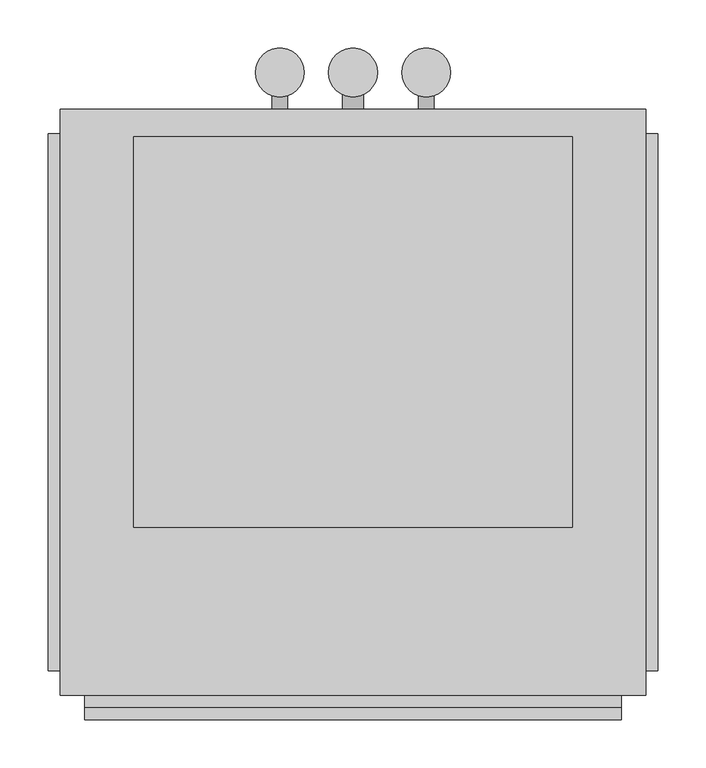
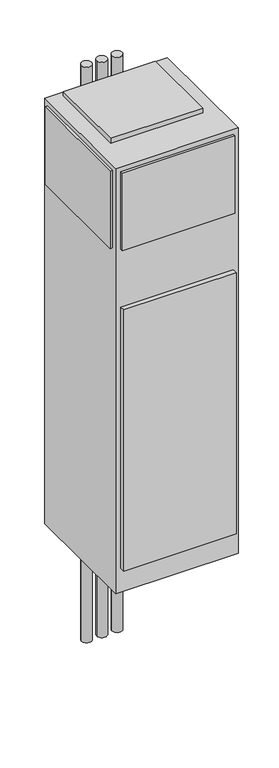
"""IFC4 building model written with IfcOpenShell, lengths in millimetres: proxy geometry, Concealed_Universal_Modular_Fan_Coil_Unit_-_42SUB_-_CARRIER_-_2-Pipe_Cool-EHeat_-_WithRisers_2022 : Size 10 - 277v/60Hz/1Ph - 4 Row 8.0kW."""

from ifc_helpers import new_model, si_unit, point, frame, frame_2d, origin, origin_with_axes, place, context, project, spatial, polyline, circle_curve, trimmed, segment, composite_curve, outline, extrude, source, transform, mapped, element, save


def mechanical_equipment_e8841748(model_context):
    return source(origin(), model_context, "Body", "SweptSolid", [
        extrude(outline(composite_curve([segment(trimmed(circle_curve(frame_2d((381.0, 282.575)), 25.4), [point((355.6, 282.575))], [point((406.4, 282.575))], False, "CARTESIAN"), True, "CONTINUOUS"), segment(trimmed(circle_curve(frame_2d((381.0, 282.575)), 25.4), [point((406.4, 282.575))], [point((355.6, 282.575))], False, "CARTESIAN"), True, "CONTINUOUS")], self_intersect=False)), frame((0.0, 0.0, -711.2), z_axis=(0.0, 0.0, 1.0), x_axis=(1.0, 0.0, 0.0)), (0.0, 0.0, 1.0), 3022.6),
        extrude(outline(composite_curve([segment(trimmed(circle_curve(frame_2d((457.2, 282.575)), 25.4), [point((431.8, 282.575))], [point((482.6, 282.575))], False, "CARTESIAN"), True, "CONTINUOUS"), segment(trimmed(circle_curve(frame_2d((457.2, 282.575)), 25.4), [point((482.6, 282.575))], [point((431.8, 282.575))], False, "CARTESIAN"), True, "CONTINUOUS")], self_intersect=False)), frame((0.0, 0.0, -711.2), z_axis=(0.0, 0.0, 1.0), x_axis=(1.0, 0.0, 0.0)), (0.0, 0.0, 1.0), 3022.6),
        extrude(outline(composite_curve([segment(trimmed(circle_curve(frame_2d((533.4, 282.575)), 25.4), [point((508.0, 282.575))], [point((558.8, 282.575))], False, "CARTESIAN"), True, "CONTINUOUS"), segment(trimmed(circle_curve(frame_2d((533.4, 282.575)), 25.4), [point((558.8, 282.575))], [point((508.0, 282.575))], False, "CARTESIAN"), True, "CONTINUOUS")], self_intersect=False)), frame((0.0, 0.0, -711.2), z_axis=(0.0, 0.0, 1.0), x_axis=(1.0, 0.0, 0.0)), (0.0, 0.0, 1.0), 3022.6),
        extrude(outline(composite_curve([segment(trimmed(circle_curve(frame_2d((990.6, 533.4)), 7.9375), [point((990.6, 525.4625))], [point((990.6, 541.3375))], False, "CARTESIAN"), True, "CONTINUOUS"), segment(trimmed(circle_curve(frame_2d((990.6, 533.4)), 7.9375), [point((990.6, 541.3375))], [point((990.6, 525.4625))], False, "CARTESIAN"), True, "CONTINUOUS")], self_intersect=False)), frame((0.0, 244.475, 0.0), z_axis=(0.0, 1.0, 0.0), x_axis=(0.0, 0.0, 1.0)), (0.0, 0.0, 1.0), 50.8),
        extrude(outline(composite_curve([segment(trimmed(circle_curve(frame_2d((990.6, 381.0)), 7.9375), [point((990.6, 373.0625))], [point((990.6, 388.9375))], False, "CARTESIAN"), True, "CONTINUOUS"), segment(trimmed(circle_curve(frame_2d((990.6, 381.0)), 7.9375), [point((990.6, 388.9375))], [point((990.6, 373.0625))], False, "CARTESIAN"), True, "CONTINUOUS")], self_intersect=False)), frame((0.0, 244.475, 0.0), z_axis=(0.0, 1.0, 0.0), x_axis=(0.0, 0.0, 1.0)), (0.0, 0.0, 1.0), 50.8),
        extrude(outline(composite_curve([segment(trimmed(circle_curve(frame_2d((76.2, 457.2)), 11.1125), [point((76.2, 446.0875))], [point((76.2, 468.3125))], False, "CARTESIAN"), True, "CONTINUOUS"), segment(trimmed(circle_curve(frame_2d((76.2, 457.2)), 11.1125), [point((76.2, 468.3125))], [point((76.2, 446.0875))], False, "CARTESIAN"), True, "CONTINUOUS")], self_intersect=False)), frame((0.0, 244.475, 0.0), z_axis=(0.0, 1.0, 0.0), x_axis=(0.0, 0.0, 1.0)), (0.0, 0.0, 1.0), 50.8),
        extrude(outline(polyline([(685.8, 215.9), (685.8, -190.5), (228.6, -190.5), (228.6, 215.9), (685.8, 215.9)])), frame((0.0, 0.0, 2235.2), z_axis=(0.0, 0.0, 1.0), x_axis=(1.0, 0.0, 0.0)), (0.0, 0.0, 1.0), 25.4),
        extrude(outline(polyline([(139.7, -339.725), (139.7, 219.075), (152.4, 219.075), (152.4, -339.725), (139.7, -339.725)])), frame((0.0, 0.0, 1803.4), z_axis=(0.0, 0.0, 1.0), x_axis=(1.0, 0.0, 0.0)), (0.0, 0.0, 1.0), 406.4),
        extrude(outline(polyline([(774.7, 219.075), (774.7, -339.725), (762.0, -339.725), (762.0, 219.075), (774.7, 219.075)])), frame((0.0, 0.0, 1803.4), z_axis=(0.0, 0.0, 1.0), x_axis=(1.0, 0.0, 0.0)), (0.0, 0.0, 1.0), 406.4),
        extrude(outline(polyline([(736.6, -377.825), (177.8, -377.825), (177.8, -365.125), (736.6, -365.125), (736.6, -377.825)])), frame((0.0, 0.0, 1803.4), z_axis=(0.0, 0.0, 1.0), x_axis=(1.0, 0.0, 0.0)), (0.0, 0.0, 1.0), 406.4),
        extrude(outline(polyline([(736.6, -390.525), (177.8, -390.525), (177.8, -365.125), (736.6, -365.125), (736.6, -390.525)])), frame((0.0, 0.0, 127.0), z_axis=(0.0, 0.0, 1.0), x_axis=(1.0, 0.0, 0.0)), (0.0, 0.0, 1.0), 1371.6),
        extrude(outline(polyline([(762.0, 244.475), (762.0, -365.125), (152.4, -365.125), (152.4, 244.475), (762.0, 244.475)])), origin_with_axes(), (0.0, 0.0, 1.0), 2235.2),
    ])


if __name__ == "__main__":
    model = new_model("IFC4")
    model_context = context("Model", 3, world=origin())
    ifc_project = project(units=[si_unit("LENGTHUNIT", "METRE", prefix="MILLI")], contexts=[model_context])
    site = spatial("IfcSite", under=ifc_project)
    building = spatial("IfcBuilding", under=site)
    placement = place(None, origin())
    mechanical_equipment_shape = mechanical_equipment_e8841748(model_context)
    element("IfcBuildingElementProxy", 1, Name="Concealed_Universal_Modular_Fan_Coil_Unit_-_42SUB_-_CARRIER_-_2-Pipe_Cool-EHeat_-_WithRisers_2022 : Size 10 - 277v/60Hz/1Ph - 4 Row 8.0kW", ObjectType="Concealed_Universal_Modular_Fan_Coil_Unit_-_42SUB_-_CARRIER_-_2-Pipe_Cool-EHeat_-_WithRisers_2022 : Size 10 - 277v/60Hz/1Ph - 4 Row 8.0kW", at=placement, inside=building, context=model_context, shape_type="MappedRepresentation", body=[
        mapped(mechanical_equipment_shape, transform((0.0, 0.0, 0.0), x_axis=(1.0, 0.0, 0.0), y_axis=(0.0, 1.0, 0.0), z_axis=(0.0, 0.0, 1.0))),
    ])
    save(model, "model.ifc")
